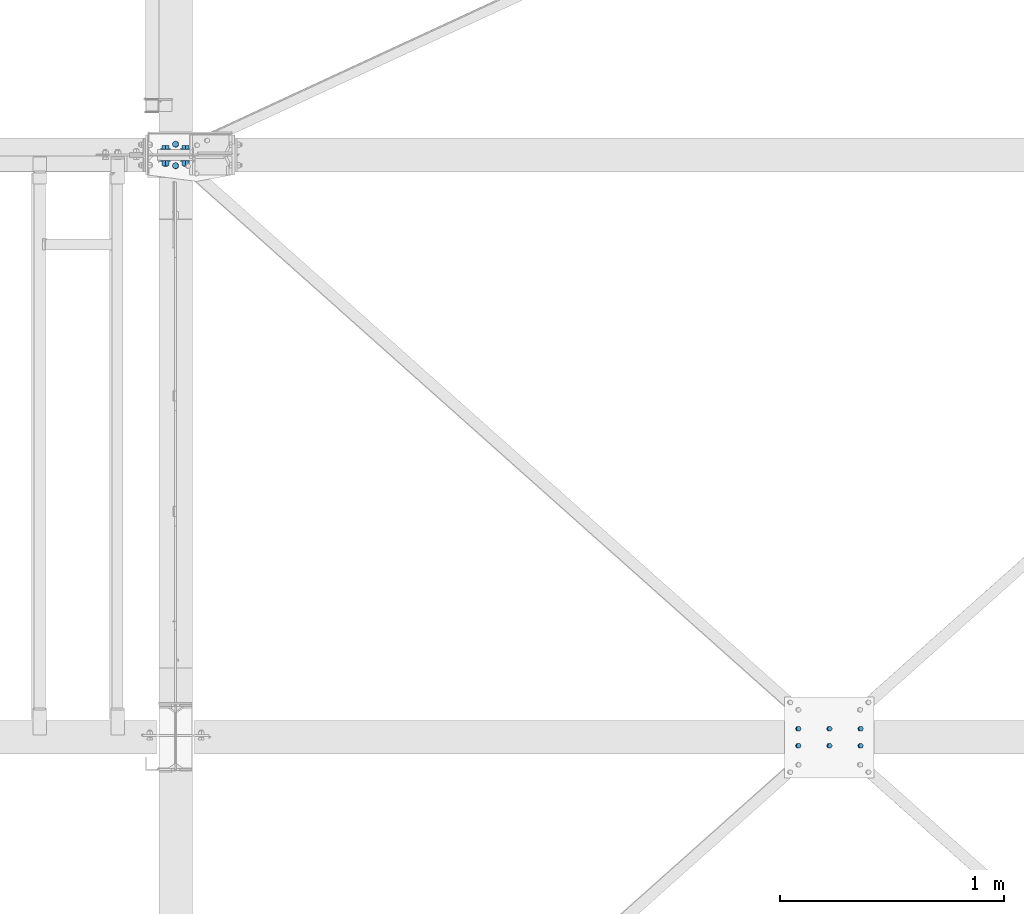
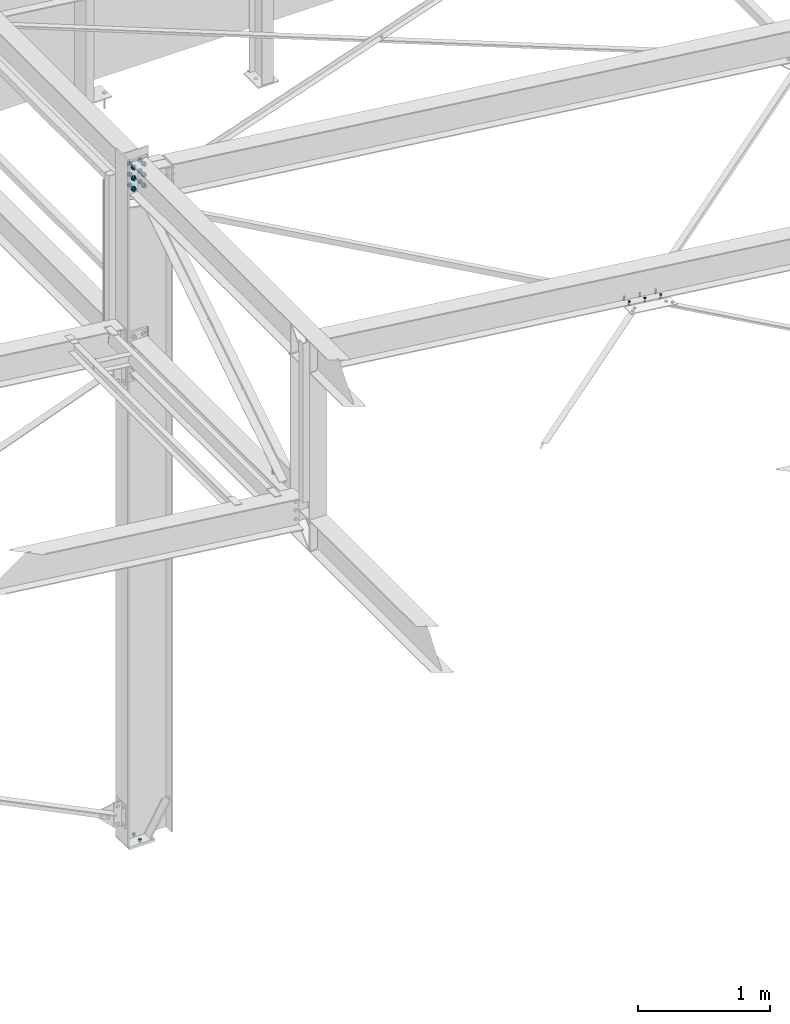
# One storey, part 296 of 3134: 3 mechanical fasteners, 3 elements without a shape of their own.
"""IFC2X3 building model written with IfcOpenShell, lengths in millimetres."""

import ifcopenshell
import ifcopenshell.guid

model = None  # the IFC model being written
_history = None  # IfcOwnerHistory: only IFC2X3 demands one
_inside = {}  # id of a spatial element -> (the spatial element, [elements in it])
_under = {}  # id of a project, library or spatial element -> (it, [spatial elements below it])
_declared = {}  # id of a project -> (the project, [libraries it declares])
_typed = {}  # id of a type object -> (the type object, [elements of that type])
_made_of = {}  # id of a material, layer set ... -> (it, [elements and type objects made of it])


def new_model(schema):
    """Start an empty IFC model of exactly this schema.

    Asked for "IFC4X3", IfcOpenShell would pick the latest addendum, in which some entities
    have other attributes; the version numbers below select the first issue.
    IFC2X3 requires an IfcOwnerHistory on every rooted entity: one is made here for all.
    """
    global model, _history
    if schema == "IFC4X3":
        model = ifcopenshell.file(schema_version=(4, 3, 0, 0))
    else:
        model = ifcopenshell.file(schema=schema)
    _inside.clear()
    _under.clear()
    _declared.clear()
    _typed.clear()
    _made_of.clear()
    _history = None
    if model.schema == "IFC2X3":
        org = make("IfcOrganization", Name="unknown")
        user = make(
            "IfcPersonAndOrganization",
            ThePerson=make("IfcPerson", FamilyName="unknown"),
            TheOrganization=org,
        )
        app = make(
            "IfcApplication",
            ApplicationDeveloper=org,
            Version="unknown",
            ApplicationFullName="unknown",
            ApplicationIdentifier="unknown",
        )
        _history = make(
            "IfcOwnerHistory",
            OwningUser=user,
            OwningApplication=app,
            ChangeAction="ADDED",
            CreationDate=0,
        )
    return model


def make(cls, **values):
    """One entity of the class cls with the attributes given. An attribute that is None is left unset."""
    return model.create_entity(
        cls, **{name: value for name, value in values.items() if value is not None}
    )


def rooted(cls, **values):
    """An entity with a GlobalId (a new one), such as an element, a storey or a relation."""
    return make(cls, GlobalId=ifcopenshell.guid.new(), OwnerHistory=_history, **values)


def si_unit(unit_type, name, prefix=None):
    """IfcSIUnit, for example si_unit("LENGTHUNIT", "METRE", prefix="MILLI")."""
    return make("IfcSIUnit", UnitType=unit_type, Prefix=prefix, Name=name)


def assignment(units):
    """IfcUnitAssignment: the units of a project."""
    return None if units is None else make("IfcUnitAssignment", Units=units)


def point(xyz):
    """IfcCartesianPoint."""
    return None if xyz is None else make("IfcCartesianPoint", Coordinates=xyz)


def direction(xyz):
    """IfcDirection."""
    return None if xyz is None else make("IfcDirection", DirectionRatios=xyz)


def frame(location, z_axis=None, x_axis=None):
    """IfcAxis2Placement3D, a coordinate frame: its origin and axes. An axis left out is left unset."""
    return make(
        "IfcAxis2Placement3D",
        Location=point(location),
        Axis=direction(z_axis),
        RefDirection=direction(x_axis),
    )


def origin_with_axes():
    """The frame at (0, 0, 0) with the z axis (0, 0, 1) and the x axis (1, 0, 0) written out."""
    return frame((0.0, 0.0, 0.0), z_axis=(0.0, 0.0, 1.0), x_axis=(1.0, 0.0, 0.0))


def place(relative_to, where):
    """IfcLocalPlacement: puts the frame where relative to a parent placement (None: the world)."""
    return make(
        "IfcLocalPlacement", PlacementRelTo=relative_to, RelativePlacement=where
    )


def context(
    kind, dimensions, precision=None, world=None, true_north=None, identifier=None
):
    """IfcGeometricRepresentationContext, for example the 3D "Model" context."""
    return make(
        "IfcGeometricRepresentationContext",
        ContextIdentifier=identifier,
        ContextType=kind,
        CoordinateSpaceDimension=dimensions,
        Precision=precision,
        WorldCoordinateSystem=world,
        TrueNorth=true_north,
    )


def subcontext(parent, identifier, kind, view, scale=None):
    """IfcGeometricRepresentationSubContext, for example "Body" below "Model"."""
    return make(
        "IfcGeometricRepresentationSubContext",
        ContextIdentifier=identifier,
        ContextType=kind,
        ParentContext=parent,
        TargetScale=scale,
        TargetView=view,
    )


def project(units=None, contexts=None):
    """IfcProject with its units and contexts."""
    return rooted(
        "IfcProject",
        Name="project",
        RepresentationContexts=contexts,
        UnitsInContext=assignment(units),
    )


def spatial(cls, under=None, at=None, **own):
    """A site, building, storey or space (cls), placed at a placement, below another one or the project."""
    s = rooted(cls, ObjectPlacement=at, **own)
    if under is not None:
        _under.setdefault(under.id(), (under, []))[1].append(s)
    return s


def faces_of(points, faces, orient=None, outer=None):
    """IfcFace entities. A face is a list of loops; a loop is a list of indices into points, from 0.

    orient and outer hold one flag for each loop. By default every Orientation is true, the
    first loop of a face is its IfcFaceOuterBound and the others are IfcFaceBound.
    """
    made = []
    for i, loops in enumerate(faces):
        bounds = []
        for j, loop in enumerate(loops):
            is_outer = j == 0 if outer is None else outer[i][j]
            bounds.append(
                make(
                    "IfcFaceOuterBound" if is_outer else "IfcFaceBound",
                    Bound=make("IfcPolyLoop", Polygon=[points[k] for k in loop]),
                    Orientation=True if orient is None else orient[i][j],
                )
            )
        made.append(make("IfcFace", Bounds=bounds))
    return made


def faceted_brep(points, faces, orient=None, outer=None, voids=None):
    """IfcFacetedBrep: a solid bounded by flat faces; with voids (closed shells), ...WithVoids."""
    shared = [point(p) for p in points]
    hull = make("IfcClosedShell", CfsFaces=faces_of(shared, faces, orient, outer))
    if voids is None:
        return make("IfcFacetedBrep", Outer=hull)
    return make(
        "IfcFacetedBrepWithVoids",
        Outer=hull,
        Voids=[
            make(cls, CfsFaces=faces_of(shared, fs, o, b)) for cls, fs, o, b in voids
        ],
    )


def shape(context_of_items, identifier, shape_type, items):
    """IfcShapeRepresentation: the items that make up one representation, for example the "Body"."""
    return make(
        "IfcShapeRepresentation",
        ContextOfItems=context_of_items,
        RepresentationIdentifier=identifier,
        RepresentationType=shape_type,
        Items=items,
    )


def source(mapping_origin, context_of_items, identifier, shape_type, items):
    """IfcRepresentationMap: a shape defined once, which mapped items show again and again."""
    return make(
        "IfcRepresentationMap",
        MappingOrigin=mapping_origin,
        MappedRepresentation=shape(context_of_items, identifier, shape_type, items),
    )


def transform(
    local_origin,
    x_axis=None,
    y_axis=None,
    z_axis=None,
    scale=None,
    scale2=None,
    scale3=None,
    uniform=True,
):
    """IfcCartesianTransformationOperator3D, or its non-uniform kind. x_axis, y_axis, z_axis: its Axis1, 2, 3."""
    if uniform:
        return make(
            "IfcCartesianTransformationOperator3D",
            Axis1=direction(x_axis),
            Axis2=direction(y_axis),
            LocalOrigin=point(local_origin),
            Scale=scale,
            Axis3=direction(z_axis),
        )
    return make(
        "IfcCartesianTransformationOperator3DnonUniform",
        Axis1=direction(x_axis),
        Axis2=direction(y_axis),
        LocalOrigin=point(local_origin),
        Scale=scale,
        Axis3=direction(z_axis),
        Scale2=scale2,
        Scale3=scale3,
    )


def mapped(mapping_source, mapping_target):
    """IfcMappedItem: shows the shape of a source again, moved by a transform."""
    return make(
        "IfcMappedItem", MappingSource=mapping_source, MappingTarget=mapping_target
    )


def material(Name=None, Category=None):
    """IfcMaterial."""
    return make("IfcMaterial", Name=Name, Category=Category)


def made_of(thing, what):
    """Note that an element or type object is made of a material, layer set ...; save() writes the relation."""
    if what is not None:
        _made_of.setdefault(what.id(), (what, []))[1].append(thing)
    return thing


def type_object(cls, material=None, **own):
    """A type object (cls), such as IfcWallType, which elements share."""
    return made_of(rooted(cls, **own), material)


def element(
    cls,
    number,
    at=None,
    inside=None,
    cuts=None,
    type_object=None,
    material=None,
    context=None,
    identifier="Body",
    shape_type=None,
    held_by="IfcProductDefinitionShape",
    body=None,
    shapes=None,
    **own,
):
    """One element of the class cls, such as IfcWall. Its Tag is "e" and its number.

    at: its placement. inside: the storey or other place that contains it. cuts: it is an
    opening in that element (IfcRelVoidsElement). A single representation is given by context,
    identifier, shape_type and body (its items); several are given by shapes. held_by: the class
    of the entity that holds the representations. save() writes the other relations.
    """
    e = rooted(cls, Tag="e%d" % number, ObjectPlacement=at, **own)
    if body is not None:
        shapes = [shape(context, identifier, shape_type, body)]
    if shapes is not None:
        e.Representation = make(held_by, Representations=shapes)
    if inside is not None:
        _inside.setdefault(inside.id(), (inside, []))[1].append(e)
    if cuts is not None:
        rooted(
            "IfcRelVoidsElement", RelatingBuildingElement=cuts, RelatedOpeningElement=e
        )
    if type_object is not None:
        _typed.setdefault(type_object.id(), (type_object, []))[1].append(e)
    return made_of(e, material)


def aggregate(whole, parts):
    """IfcRelAggregates: a whole, such as a stair, and the parts it consists of."""
    return rooted("IfcRelAggregates", RelatingObject=whole, RelatedObjects=parts)


def save(model, path):
    """Write the relations noted so far, then the file.

    IfcRelAggregates (storeys below a building ...), IfcRelContainedInSpatialStructure (elements
    in a storey), IfcRelDefinesByType, IfcRelAssociatesMaterial and IfcRelDeclares: one each for
    every whole, place, type object, material and project.
    """
    for whole, parts in _under.values():
        aggregate(whole, parts)
    for where, things in _inside.values():
        rooted(
            "IfcRelContainedInSpatialStructure",
            RelatedElements=things,
            RelatingStructure=where,
        )
    for kind, things in _typed.values():
        rooted("IfcRelDefinesByType", RelatedObjects=things, RelatingType=kind)
    for what, things in _made_of.values():
        rooted("IfcRelAssociatesMaterial", RelatedObjects=things, RelatingMaterial=what)
    for by, libraries in _declared.values():
        rooted("IfcRelDeclares", RelatingContext=by, RelatedDefinitions=libraries)
    model.write(path)


model = new_model("IFC2X3")

# Units and contexts
model_context = context("Model", 3, precision=1e-05, world=origin_with_axes())
body_context = subcontext(model_context, "Body", "Model", "MODEL_VIEW")
ifc_project = project(units=[si_unit("LENGTHUNIT", "METRE", prefix="MILLI"), si_unit("AREAUNIT", "SQUARE_METRE"), si_unit("VOLUMEUNIT", "CUBIC_METRE"), si_unit("MASSUNIT", "GRAM", prefix="KILO"), si_unit("TIMEUNIT", "SECOND"), si_unit("PLANEANGLEUNIT", "RADIAN"), si_unit("SOLIDANGLEUNIT", "STERADIAN"), si_unit("THERMODYNAMICTEMPERATUREUNIT", "DEGREE_CELSIUS"), si_unit("LUMINOUSINTENSITYUNIT", "LUMEN")], contexts=[model_context])

# Site, building, storey
site_placement = place(None, origin_with_axes())
site = spatial("IfcSite", under=ifc_project, at=site_placement, CompositionType="ELEMENT")
building_placement = place(site_placement, origin_with_axes())
building = spatial("IfcBuilding", under=site, at=building_placement, Name="Undefined", CompositionType="ELEMENT")
storey_placement = place(building_placement, origin_with_axes())
storey = spatial("IfcBuildingStorey", under=building, at=storey_placement, Name="Undefined", CompositionType="ELEMENT", Elevation=0.0)

# Assembly, mechanical fastener
assembly_1_placement = place(storey_placement, origin_with_axes())
assembly_1 = element("IfcElementAssembly", 1, at=assembly_1_placement, inside=storey, Name="300", AssemblyPlace="NOTDEFINED", PredefinedType="RIGID_FRAME")
ifc_material_1 = material(Name="8.8")
mechanical_fastener_type = type_object("IfcMechanicalFastenerType", Name="Bolt assembly")
shared_shape_1 = source(origin_with_axes(), body_context, "Body", "Brep", [
    faceted_brep([(10.9696551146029, -17.1999998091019, 0.0), (5.48482755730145, -17.1999998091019, 9.5), (-5.48482755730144, -17.1999998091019, 9.5), (-10.9696551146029, -17.1999998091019, 1.34339530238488e-15), (-5.48482755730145, -17.1999998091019, -9.5), (5.48482755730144, -17.1999998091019, -9.50000000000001), (5.48482755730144, -9.19999978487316, -9.50000000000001), (-5.48482755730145, -9.19999978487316, -9.5), (-10.9696551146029, -9.19999978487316, 1.34339530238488e-15), (-5.48482755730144, -9.19999978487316, 9.5), (5.48482755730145, -9.19999978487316, 9.5), (10.9696551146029, -9.19999978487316, 0.0), (6.0, -9.19999978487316, 0.0), (5.19615242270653, -9.19999978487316, 3.00000000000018), (2.99999999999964, -9.19999978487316, 5.19615242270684), (-6.21801588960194e-13, -9.19999978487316, 6.0), (-3.00000000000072, -9.19999978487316, 5.19615242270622), (-5.19615242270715, -9.19999978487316, 2.9999999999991), (-6.0, -9.19999978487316, -1.24360317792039e-12), (-5.19615242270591, -9.19999978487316, -3.00000000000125), (-2.99999999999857, -9.19999978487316, -5.19615242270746), (1.85874342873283e-12, -9.19999978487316, -6.0), (3.00000000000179, -9.19999978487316, -5.1961524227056), (5.19615242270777, -9.19999978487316, -2.99999999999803), (5.19615242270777, 25.8000002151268, -2.99999999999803), (3.00000000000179, 25.8000002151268, -5.1961524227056), (1.85874342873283e-12, 25.8000002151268, -6.0), (-2.99999999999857, 25.8000002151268, -5.19615242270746), (-5.19615242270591, 25.8000002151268, -3.00000000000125), (-6.0, 25.8000002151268, -1.24360317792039e-12), (-5.19615242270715, 25.8000002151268, 2.9999999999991), (-3.00000000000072, 25.8000002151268, 5.19615242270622), (-6.21801588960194e-13, 25.8000002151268, 6.0), (2.99999999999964, 25.8000002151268, 5.19615242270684), (5.19615242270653, 25.8000002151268, 3.00000000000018), (6.0, 25.8000002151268, 0.0), (10.9696551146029, 8.0, 0.0), (5.48482755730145, 8.0, 9.5), (-5.48482755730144, 8.0, 9.5), (-10.9696551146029, 8.0, 1.34339530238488e-15), (-5.48482755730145, 8.0, -9.5), (5.48482755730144, 8.0, -9.50000000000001), (5.48482755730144, 18.0, -9.50000000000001), (-5.48482755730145, 18.0, -9.5), (-10.9696551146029, 18.0, 1.34339530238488e-15), (-5.48482755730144, 18.0, 9.5), (5.48482755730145, 18.0, 9.5), (10.9696551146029, 18.0, 0.0)], [[[0, 1, 2, 3, 4, 5]], [[6, 7, 8, 9, 10, 11]], [[0, 11, 10, 1]], [[1, 10, 9, 2]], [[2, 9, 8, 3]], [[3, 8, 7, 4]], [[4, 7, 6, 5]], [[5, 6, 11, 0]], [[12, 13, 14, 15, 16, 17, 18, 19, 20, 21, 22, 23]], [[24, 25, 26, 27, 28, 29, 30, 31, 32, 33, 34, 35]], [[12, 35, 34, 13]], [[13, 34, 33, 14]], [[14, 33, 32, 15]], [[15, 32, 31, 16]], [[16, 31, 30, 17]], [[17, 30, 29, 18]], [[18, 29, 28, 19]], [[19, 28, 27, 20]], [[20, 27, 26, 21]], [[21, 26, 25, 22]], [[22, 25, 24, 23]], [[23, 24, 35, 12]], [[36, 37, 38, 39, 40, 41]], [[42, 43, 44, 45, 46, 47]], [[36, 47, 46, 37]], [[37, 46, 45, 38]], [[38, 45, 44, 39]], [[39, 44, 43, 40]], [[40, 43, 42, 41]], [[41, 42, 47, 36]]]),
    faceted_brep([(7.0, -0.1, 0.0), (6.06217782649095, -0.1, 3.50000000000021), (3.49999999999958, -0.1, 6.06217782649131), (-7.25435187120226e-13, -0.1, 7.0), (-3.50000000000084, -0.1, 6.06217782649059), (-6.06217782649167, -0.1, 3.49999999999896), (-7.0, -0.1, -1.45087037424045e-12), (-6.06217782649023, -0.1, -3.50000000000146), (-3.49999999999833, -0.1, -6.06217782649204), (2.1685340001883e-12, -0.1, -7.0), (3.50000000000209, -0.1, -6.06217782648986), (6.0621778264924, -0.1, -3.4999999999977), (6.0621778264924, 8.0000000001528, -3.4999999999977), (3.50000000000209, 8.0000000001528, -6.06217782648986), (2.1685340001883e-12, 8.0000000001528, -7.0), (-3.49999999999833, 8.0000000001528, -6.06217782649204), (-6.06217782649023, 8.0000000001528, -3.50000000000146), (-7.0, 8.0000000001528, -1.45087037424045e-12), (-6.06217782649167, 8.0000000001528, 3.49999999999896), (-3.50000000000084, 8.0000000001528, 6.06217782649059), (-7.25435187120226e-13, 8.0000000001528, 7.0), (3.49999999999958, 8.0000000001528, 6.06217782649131), (6.06217782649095, 8.0000000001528, 3.50000000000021), (7.0, 8.0000000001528, 0.0), (7.0, -9.09999980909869, 0.0), (6.06217782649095, -9.09999980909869, 3.50000000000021), (3.49999999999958, -9.09999980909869, 6.06217782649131), (-7.25435187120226e-13, -9.09999980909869, 7.0), (-3.50000000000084, -9.09999980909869, 6.06217782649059), (-6.06217782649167, -9.09999980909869, 3.49999999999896), (-7.0, -9.09999980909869, -1.45087037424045e-12), (-6.06217782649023, -9.09999980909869, -3.50000000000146), (-3.49999999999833, -9.09999980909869, -6.06217782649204), (2.1685340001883e-12, -9.09999980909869, -7.0), (3.50000000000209, -9.09999980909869, -6.06217782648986), (6.0621778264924, -9.09999980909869, -3.4999999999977), (6.0621778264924, 0.0999999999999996, -3.4999999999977), (3.50000000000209, 0.0999999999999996, -6.06217782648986), (2.1685340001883e-12, 0.0999999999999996, -7.0), (-3.49999999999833, 0.0999999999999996, -6.06217782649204), (-6.06217782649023, 0.0999999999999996, -3.50000000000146), (-7.0, 0.0999999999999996, -1.45087037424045e-12), (-6.06217782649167, 0.0999999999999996, 3.49999999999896), (-3.50000000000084, 0.0999999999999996, 6.06217782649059), (-7.25435187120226e-13, 0.0999999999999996, 7.0), (3.49999999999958, 0.0999999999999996, 6.06217782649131), (6.06217782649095, 0.0999999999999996, 3.50000000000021), (7.0, 0.0999999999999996, 0.0)], [[[0, 1, 2, 3, 4, 5, 6, 7, 8, 9, 10, 11]], [[12, 13, 14, 15, 16, 17, 18, 19, 20, 21, 22, 23]], [[0, 23, 22, 1]], [[1, 22, 21, 2]], [[2, 21, 20, 3]], [[3, 20, 19, 4]], [[4, 19, 18, 5]], [[5, 18, 17, 6]], [[6, 17, 16, 7]], [[7, 16, 15, 8]], [[8, 15, 14, 9]], [[9, 14, 13, 10]], [[10, 13, 12, 11]], [[11, 12, 23, 0]], [[24, 25, 26, 27, 28, 29, 30, 31, 32, 33, 34, 35]], [[36, 37, 38, 39, 40, 41, 42, 43, 44, 45, 46, 47]], [[24, 47, 46, 25]], [[25, 46, 45, 26]], [[26, 45, 44, 27]], [[27, 44, 43, 28]], [[28, 43, 42, 29]], [[29, 42, 41, 30]], [[30, 41, 40, 31]], [[31, 40, 39, 32]], [[32, 39, 38, 33]], [[33, 38, 37, 34]], [[34, 37, 36, 35]], [[35, 36, 47, 24]]]),
])
mechanical_fastener_1_placement = place(assembly_1_placement, frame((58933.2022067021, 58450.0, 5146.25993625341), z_axis=(0.0, -1.0, 0.0), x_axis=(-0.992623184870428, 0.0, 0.121240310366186)))
mechanical_fastener_1 = element("IfcMechanicalFastener", 2, at=mechanical_fastener_1_placement, type_object=mechanical_fastener_type, material=ifc_material_1, Name="Bolt assembly", NominalDiameter=12.0, NominalLength=35.0, context=body_context, shape_type="MappedRepresentation", body=[
    mapped(shared_shape_1, transform((0.0, 0.0, -38.0))),
    mapped(shared_shape_1, transform((140.000000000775, 5.85714587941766e-10, -38.0))),
    mapped(shared_shape_1, transform((279.999999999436, -4.74756234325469e-10, -38.0))),
    mapped(shared_shape_1, transform((0.0, 0.0, 38.0))),
    mapped(shared_shape_1, transform((140.000000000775, 5.85714587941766e-10, 38.0))),
    mapped(shared_shape_1, transform((279.999999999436, -4.74756234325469e-10, 38.0))),
])
aggregate(assembly_1, [mechanical_fastener_1])

assembly_2_placement = place(storey_placement, origin_with_axes())
assembly_2 = element("IfcElementAssembly", 3, at=assembly_2_placement, inside=storey, Name="300", AssemblyPlace="NOTDEFINED", PredefinedType="RIGID_FRAME")
ifc_material_2 = material(Name="HR10.9")
shared_shape_2 = source(origin_with_axes(), body_context, "Body", "Brep", [
    faceted_brep([(18.475208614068, -61.8999996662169, 0.0), (9.23760430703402, -61.8999996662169, 16.0), (-9.23760430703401, -61.8999996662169, 16.0), (-18.475208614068, -61.8999996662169, 2.2625605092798e-15), (-9.23760430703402, -61.8999996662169, -16.0), (9.237604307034, -61.8999996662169, -16.0), (9.237604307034, -48.0000000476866, -16.0), (-9.23760430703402, -48.0000000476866, -16.0), (-18.475208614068, -48.0000000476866, 2.2625605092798e-15), (-9.23760430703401, -48.0000000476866, 16.0), (9.23760430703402, -48.0000000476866, 16.0), (18.475208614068, -48.0000000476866, 0.0), (10.0, -48.0000000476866, 0.0), (8.66025403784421, -48.0000000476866, 5.0000000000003), (4.9999999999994, -48.0000000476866, 8.66025403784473), (-1.03633598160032e-12, -48.0000000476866, 10.0), (-5.00000000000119, -48.0000000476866, 8.6602540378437), (-8.66025403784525, -48.0000000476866, 4.99999999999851), (-10.0, -48.0000000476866, -2.07267196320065e-12), (-8.66025403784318, -48.0000000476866, -5.00000000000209), (-4.99999999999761, -48.0000000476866, -8.66025403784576), (3.09790571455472e-12, -48.0000000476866, -10.0), (5.00000000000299, -48.0000000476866, -8.66025403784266), (8.66025403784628, -48.0000000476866, -4.99999999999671), (8.66025403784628, 31.9999999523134, -4.99999999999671), (5.00000000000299, 31.9999999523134, -8.66025403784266), (3.09790571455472e-12, 31.9999999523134, -10.0), (-4.99999999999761, 31.9999999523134, -8.66025403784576), (-8.66025403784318, 31.9999999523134, -5.00000000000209), (-10.0, 31.9999999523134, -2.07267196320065e-12), (-8.66025403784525, 31.9999999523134, 4.99999999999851), (-5.00000000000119, 31.9999999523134, 8.6602540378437), (-1.03633598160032e-12, 31.9999999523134, 10.0), (4.9999999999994, 31.9999999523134, 8.66025403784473), (8.66025403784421, 31.9999999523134, 5.0000000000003), (10.0, 31.9999999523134, 0.0), (22.0, -48.0000000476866, 0.0), (19.0525588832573, -48.0000000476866, 11.0000000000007), (10.9999999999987, -48.0000000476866, 19.0525588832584), (-2.27993915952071e-12, -48.0000000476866, 22.0), (-11.0000000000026, -48.0000000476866, 19.0525588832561), (-19.0525588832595, -48.0000000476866, 10.9999999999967), (-22.0, -48.0000000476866, -4.55987831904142e-12), (-19.052558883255, -48.0000000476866, -11.0000000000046), (-10.9999999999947, -48.0000000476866, -19.0525588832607), (6.81539257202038e-12, -48.0000000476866, -22.0), (11.0000000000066, -48.0000000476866, -19.0525588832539), (19.0525588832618, -48.0000000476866, -10.9999999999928), (19.0525588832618, -44.3000000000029, -10.9999999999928), (11.0000000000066, -44.3000000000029, -19.0525588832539), (6.81539257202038e-12, -44.3000000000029, -22.0), (-10.9999999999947, -44.3000000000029, -19.0525588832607), (-19.052558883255, -44.3000000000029, -11.0000000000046), (-22.0, -44.3000000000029, -4.55987831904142e-12), (-19.0525588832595, -44.3000000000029, 10.9999999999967), (-11.0000000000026, -44.3000000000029, 19.0525588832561), (-2.27993915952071e-12, -44.3000000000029, 22.0), (10.9999999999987, -44.3000000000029, 19.0525588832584), (19.0525588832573, -44.3000000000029, 11.0000000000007), (22.0, -44.3000000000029, 0.0), (22.0, 4.30000000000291, 0.0), (19.0525588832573, 4.30000000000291, 11.0000000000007), (10.9999999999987, 4.30000000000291, 19.0525588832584), (-2.27993915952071e-12, 4.30000000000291, 22.0), (-11.0000000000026, 4.30000000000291, 19.0525588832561), (-19.0525588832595, 4.30000000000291, 10.9999999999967), (-22.0, 4.30000000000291, -4.55987831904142e-12), (-19.052558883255, 4.30000000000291, -11.0000000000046), (-10.9999999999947, 4.30000000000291, -19.0525588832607), (6.81539257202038e-12, 4.30000000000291, -22.0), (11.0000000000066, 4.30000000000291, -19.0525588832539), (19.0525588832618, 4.30000000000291, -10.9999999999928), (19.0525588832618, 8.00000004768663, -10.9999999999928), (11.0000000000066, 8.00000004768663, -19.0525588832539), (6.81539257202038e-12, 8.00000004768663, -22.0), (-10.9999999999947, 8.00000004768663, -19.0525588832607), (-19.052558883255, 8.00000004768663, -11.0000000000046), (-22.0, 8.00000004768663, -4.55987831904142e-12), (-19.0525588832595, 8.00000004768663, 10.9999999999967), (-11.0000000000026, 8.00000004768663, 19.0525588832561), (-2.27993915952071e-12, 8.00000004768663, 22.0), (10.9999999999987, 8.00000004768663, 19.0525588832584), (19.0525588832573, 8.00000004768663, 11.0000000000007), (22.0, 8.00000004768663, 0.0), (18.475208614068, 8.00000004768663, 0.0), (9.23760430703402, 8.00000004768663, 16.0), (-9.23760430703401, 8.00000004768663, 16.0), (-18.475208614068, 8.00000004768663, 2.2625605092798e-15), (-9.23760430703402, 8.00000004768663, -16.0), (9.237604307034, 8.00000004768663, -16.0), (9.237604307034, 26.5499992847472, -16.0), (-9.23760430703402, 26.5499992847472, -16.0), (-18.475208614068, 26.5499992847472, 2.2625605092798e-15), (-9.23760430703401, 26.5499992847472, 16.0), (9.23760430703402, 26.5499992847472, 16.0), (18.475208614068, 26.5499992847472, 0.0)], [[[0, 1, 2, 3, 4, 5]], [[6, 7, 8, 9, 10, 11]], [[0, 11, 10, 1]], [[1, 10, 9, 2]], [[2, 9, 8, 3]], [[3, 8, 7, 4]], [[4, 7, 6, 5]], [[5, 6, 11, 0]], [[12, 13, 14, 15, 16, 17, 18, 19, 20, 21, 22, 23]], [[24, 25, 26, 27, 28, 29, 30, 31, 32, 33, 34, 35]], [[12, 35, 34, 13]], [[13, 34, 33, 14]], [[14, 33, 32, 15]], [[15, 32, 31, 16]], [[16, 31, 30, 17]], [[17, 30, 29, 18]], [[18, 29, 28, 19]], [[19, 28, 27, 20]], [[20, 27, 26, 21]], [[21, 26, 25, 22]], [[22, 25, 24, 23]], [[23, 24, 35, 12]], [[36, 37, 38, 39, 40, 41, 42, 43, 44, 45, 46, 47]], [[48, 49, 50, 51, 52, 53, 54, 55, 56, 57, 58, 59]], [[36, 59, 58, 37]], [[37, 58, 57, 38]], [[38, 57, 56, 39]], [[39, 56, 55, 40]], [[40, 55, 54, 41]], [[41, 54, 53, 42]], [[42, 53, 52, 43]], [[43, 52, 51, 44]], [[44, 51, 50, 45]], [[45, 50, 49, 46]], [[46, 49, 48, 47]], [[47, 48, 59, 36]], [[60, 61, 62, 63, 64, 65, 66, 67, 68, 69, 70, 71]], [[72, 73, 74, 75, 76, 77, 78, 79, 80, 81, 82, 83]], [[60, 83, 82, 61]], [[61, 82, 81, 62]], [[62, 81, 80, 63]], [[63, 80, 79, 64]], [[64, 79, 78, 65]], [[65, 78, 77, 66]], [[66, 77, 76, 67]], [[67, 76, 75, 68]], [[68, 75, 74, 69]], [[69, 74, 73, 70]], [[70, 73, 72, 71]], [[71, 72, 83, 60]], [[84, 85, 86, 87, 88, 89]], [[90, 91, 92, 93, 94, 95]], [[84, 95, 94, 85]], [[85, 94, 93, 86]], [[86, 93, 92, 87]], [[87, 92, 91, 88]], [[88, 91, 90, 89]], [[89, 90, 95, 84]]]),
    faceted_brep([(11.0, -24.3000001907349, 0.0), (9.52627944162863, -24.3000001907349, 5.50000000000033), (5.49999999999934, -24.3000001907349, 9.5262794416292), (-1.13996957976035e-12, -24.3000001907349, 11.0), (-5.50000000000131, -24.3000001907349, 9.52627944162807), (-9.52627944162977, -24.3000001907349, 5.49999999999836), (-11.0, -24.3000001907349, -2.27993915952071e-12), (-9.5262794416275, -24.3000001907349, -5.5000000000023), (-5.49999999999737, -24.3000001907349, -9.52627944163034), (3.40769628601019e-12, -24.3000001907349, -11.0), (5.50000000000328, -24.3000001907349, -9.52627944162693), (9.52627944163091, -24.3000001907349, -5.49999999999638), (9.52627944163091, -15.6999998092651, -5.49999999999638), (5.50000000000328, -15.6999998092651, -9.52627944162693), (3.40769628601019e-12, -15.6999998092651, -11.0), (-5.49999999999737, -15.6999998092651, -9.52627944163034), (-9.5262794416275, -15.6999998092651, -5.5000000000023), (-11.0, -15.6999998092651, -2.27993915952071e-12), (-9.52627944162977, -15.6999998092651, 5.49999999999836), (-5.50000000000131, -15.6999998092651, 9.52627944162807), (-1.13996957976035e-12, -15.6999998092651, 11.0), (5.49999999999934, -15.6999998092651, 9.5262794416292), (9.52627944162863, -15.6999998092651, 5.50000000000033), (11.0, -15.6999998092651, 0.0), (11.0, -44.2000000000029, 0.0), (9.52627944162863, -44.2000000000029, 5.50000000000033), (5.49999999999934, -44.2000000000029, 9.5262794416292), (-1.13996957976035e-12, -44.2000000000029, 11.0), (-5.50000000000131, -44.2000000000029, 9.52627944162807), (-9.52627944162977, -44.2000000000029, 5.49999999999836), (-11.0, -44.2000000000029, -2.27993915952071e-12), (-9.5262794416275, -44.2000000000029, -5.5000000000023), (-5.49999999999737, -44.2000000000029, -9.52627944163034), (3.40769628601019e-12, -44.2000000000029, -11.0), (5.50000000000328, -44.2000000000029, -9.52627944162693), (9.52627944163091, -44.2000000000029, -5.49999999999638), (9.52627944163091, -24.2000000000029, -5.49999999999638), (5.50000000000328, -24.2000000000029, -9.52627944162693), (3.40769628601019e-12, -24.2000000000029, -11.0), (-5.49999999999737, -24.2000000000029, -9.52627944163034), (-9.5262794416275, -24.2000000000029, -5.5000000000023), (-11.0, -24.2000000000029, -2.27993915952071e-12), (-9.52627944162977, -24.2000000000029, 5.49999999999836), (-5.50000000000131, -24.2000000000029, 9.52627944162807), (-1.13996957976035e-12, -24.2000000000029, 11.0), (5.49999999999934, -24.2000000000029, 9.5262794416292), (9.52627944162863, -24.2000000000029, 5.50000000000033), (11.0, -24.2000000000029, 0.0), (11.0, -15.7999999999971, 0.0), (9.52627944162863, -15.7999999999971, 5.50000000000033), (5.49999999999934, -15.7999999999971, 9.5262794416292), (-1.13996957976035e-12, -15.7999999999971, 11.0), (-5.50000000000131, -15.7999999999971, 9.52627944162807), (-9.52627944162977, -15.7999999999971, 5.49999999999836), (-11.0, -15.7999999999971, -2.27993915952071e-12), (-9.5262794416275, -15.7999999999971, -5.5000000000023), (-5.49999999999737, -15.7999999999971, -9.52627944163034), (3.40769628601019e-12, -15.7999999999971, -11.0), (5.50000000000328, -15.7999999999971, -9.52627944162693), (9.52627944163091, -15.7999999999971, -5.49999999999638), (9.52627944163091, 4.30000000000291, -5.49999999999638), (5.50000000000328, 4.30000000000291, -9.52627944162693), (3.40769628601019e-12, 4.30000000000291, -11.0), (-5.49999999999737, 4.30000000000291, -9.52627944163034), (-9.5262794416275, 4.30000000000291, -5.5000000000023), (-11.0, 4.30000000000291, -2.27993915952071e-12), (-9.52627944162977, 4.30000000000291, 5.49999999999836), (-5.50000000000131, 4.30000000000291, 9.52627944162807), (-1.13996957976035e-12, 4.30000000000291, 11.0), (5.49999999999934, 4.30000000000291, 9.5262794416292), (9.52627944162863, 4.30000000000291, 5.50000000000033), (11.0, 4.30000000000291, 0.0)], [[[0, 1, 2, 3, 4, 5, 6, 7, 8, 9, 10, 11]], [[12, 13, 14, 15, 16, 17, 18, 19, 20, 21, 22, 23]], [[0, 23, 22, 1]], [[1, 22, 21, 2]], [[2, 21, 20, 3]], [[3, 20, 19, 4]], [[4, 19, 18, 5]], [[5, 18, 17, 6]], [[6, 17, 16, 7]], [[7, 16, 15, 8]], [[8, 15, 14, 9]], [[9, 14, 13, 10]], [[10, 13, 12, 11]], [[11, 12, 23, 0]], [[24, 25, 26, 27, 28, 29, 30, 31, 32, 33, 34, 35]], [[36, 37, 38, 39, 40, 41, 42, 43, 44, 45, 46, 47]], [[24, 47, 46, 25]], [[25, 46, 45, 26]], [[26, 45, 44, 27]], [[27, 44, 43, 28]], [[28, 43, 42, 29]], [[29, 42, 41, 30]], [[30, 41, 40, 31]], [[31, 40, 39, 32]], [[32, 39, 38, 33]], [[33, 38, 37, 34]], [[34, 37, 36, 35]], [[35, 36, 47, 24]], [[48, 49, 50, 51, 52, 53, 54, 55, 56, 57, 58, 59]], [[60, 61, 62, 63, 64, 65, 66, 67, 68, 69, 70, 71]], [[48, 71, 70, 49]], [[49, 70, 69, 50]], [[50, 69, 68, 51]], [[51, 68, 67, 52]], [[52, 67, 66, 53]], [[53, 66, 65, 54]], [[54, 65, 64, 55]], [[55, 64, 63, 56]], [[56, 63, 62, 57]], [[57, 62, 61, 58]], [[58, 61, 60, 59]], [[59, 60, 71, 48]]]),
])
mechanical_fastener_2_placement = place(assembly_2_placement, frame((55875.0, 61030.0, 5841.5), z_axis=(-1.0, 0.0, 0.0), x_axis=(0.0, 0.0, -1.0)))
mechanical_fastener_2 = element("IfcMechanicalFastener", 4, at=mechanical_fastener_2_placement, type_object=mechanical_fastener_type, material=ifc_material_2, Name="Bolt assembly", NominalDiameter=20.0, NominalLength=80.0, context=body_context, shape_type="MappedRepresentation", body=[
    mapped(shared_shape_2, transform((0.0, 0.0, -45.0))),
    mapped(shared_shape_2, transform((100.0, 0.0, -45.0))),
    mapped(shared_shape_2, transform((200.0, 0.0, -45.0))),
    mapped(shared_shape_2, transform((0.0, 0.0, 45.0))),
    mapped(shared_shape_2, transform((100.0, 0.0, 45.0))),
    mapped(shared_shape_2, transform((200.0, 0.0, 45.0))),
])
aggregate(assembly_2, [mechanical_fastener_2])

assembly_3_placement = place(storey_placement, origin_with_axes())
assembly_3 = element("IfcElementAssembly", 5, at=assembly_3_placement, inside=storey, Name="IPE400", AssemblyPlace="NOTDEFINED", PredefinedType="RIGID_FRAME")
shared_shape_3 = source(origin_with_axes(), body_context, "Body", "Brep", [
    faceted_brep([(13.0, -25.000000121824, 0.0), (11.2583302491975, -25.000000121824, 6.50000000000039), (6.49999999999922, -25.000000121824, 11.2583302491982), (-1.34723677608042e-12, -25.000000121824, 13.0), (-6.50000000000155, -25.000000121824, 11.2583302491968), (-11.2583302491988, -25.000000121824, 6.49999999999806), (-13.0, -25.000000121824, -2.69447355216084e-12), (-11.2583302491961, -25.000000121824, -6.50000000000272), (-6.4999999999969, -25.000000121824, -11.2583302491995), (4.02727742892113e-12, -25.000000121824, -13.0), (6.50000000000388, -25.000000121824, -11.2583302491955), (11.2583302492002, -25.000000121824, -6.49999999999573), (11.2583302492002, 0.100000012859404, -6.49999999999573), (6.50000000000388, 0.100000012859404, -11.2583302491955), (4.02727742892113e-12, 0.100000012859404, -13.0), (-6.4999999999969, 0.100000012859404, -11.2583302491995), (-11.2583302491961, 0.100000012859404, -6.50000000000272), (-13.0, 0.100000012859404, -2.69447355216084e-12), (-11.2583302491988, 0.100000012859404, 6.49999999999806), (-6.50000000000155, 0.100000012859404, 11.2583302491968), (-1.34723677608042e-12, 0.100000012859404, 13.0), (6.49999999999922, 0.100000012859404, 11.2583302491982), (11.2583302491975, 0.100000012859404, 6.50000000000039), (13.0, 0.100000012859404, 0.0)], [[[0, 1, 2, 3, 4, 5, 6, 7, 8, 9, 10, 11]], [[12, 13, 14, 15, 16, 17, 18, 19, 20, 21, 22, 23]], [[0, 23, 22, 1]], [[1, 22, 21, 2]], [[2, 21, 20, 3]], [[3, 20, 19, 4]], [[4, 19, 18, 5]], [[5, 18, 17, 6]], [[6, 17, 16, 7]], [[7, 16, 15, 8]], [[8, 15, 14, 9]], [[9, 14, 13, 10]], [[10, 13, 12, 11]], [[11, 12, 23, 0]]]),
])
mechanical_fastener_3_placement = place(assembly_3_placement, frame((56205.0, 61050.0, -375.0), z_axis=(0.0, 1.0, 0.0), x_axis=(-1.0, 0.0, 0.0)))
mechanical_fastener_3 = element("IfcMechanicalFastener", 6, at=mechanical_fastener_3_placement, type_object=mechanical_fastener_type, material=ifc_material_1, Name="Bolt assembly", NominalDiameter=24.0, NominalLength=25.0, context=body_context, shape_type="MappedRepresentation", body=[
    mapped(shared_shape_3, transform((330.0, 0.0, -48.0))),
    mapped(shared_shape_3, transform((330.0, 0.0, 48.0))),
])
aggregate(assembly_3, [mechanical_fastener_3])

save(model, "model.ifc")
